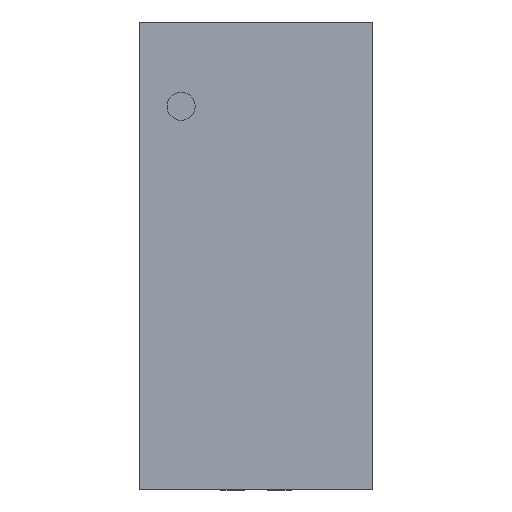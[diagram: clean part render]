
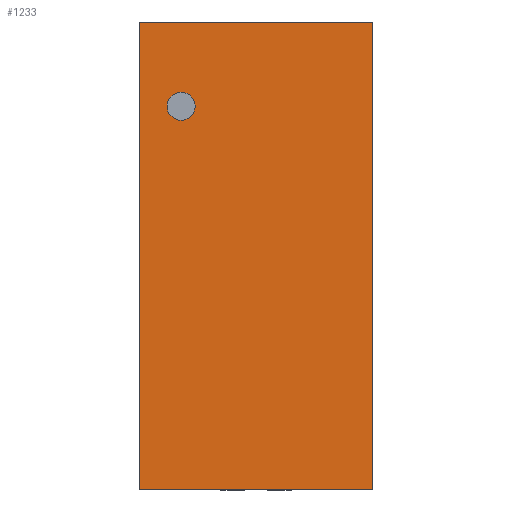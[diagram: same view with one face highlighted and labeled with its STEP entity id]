
A CAD part, top view. The second image highlights one B-rep face of the part: STEP entity #1233.
In plain terms, the highlighted planar face has unit normal (0, 0, 1).
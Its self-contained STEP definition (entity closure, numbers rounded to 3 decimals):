
#47 = EDGE_CURVE('',#48,#50,#52,.T.);
#48 = VERTEX_POINT('',#49);
#49 = CARTESIAN_POINT('',(-1.,-2.,0.55));
#50 = VERTEX_POINT('',#51);
#51 = CARTESIAN_POINT('',(-1.,2.,0.55));
#52 = SURFACE_CURVE('',#53,(#57,#69),.PCURVE_S1.);
#53 = LINE('',#54,#55);
#54 = CARTESIAN_POINT('',(-1.,-2.,0.55));
#55 = VECTOR('',#56,1.);
#56 = DIRECTION('',(0.,1.,0.));
#57 = PCURVE('',#58,#63);
#58 = PLANE('',#59);
#59 = AXIS2_PLACEMENT_3D('',#60,#61,#62);
#60 = CARTESIAN_POINT('',(-1.,-2.,0.025));
#61 = DIRECTION('',(1.,0.,0.));
#62 = DIRECTION('',(0.,0.,1.));
#63 = DEFINITIONAL_REPRESENTATION('',(#64),#68);
#64 = LINE('',#65,#66);
#65 = CARTESIAN_POINT('',(0.525,0.));
#66 = VECTOR('',#67,1.);
#67 = DIRECTION('',(0.,-1.));
#68 = ( GEOMETRIC_REPRESENTATION_CONTEXT(2) 
PARAMETRIC_REPRESENTATION_CONTEXT() REPRESENTATION_CONTEXT('2D SPACE',''
  ) );
#69 = PCURVE('',#70,#75);
#70 = PLANE('',#71);
#71 = AXIS2_PLACEMENT_3D('',#72,#73,#74);
#72 = CARTESIAN_POINT('',(-1.,-2.,0.55));
#73 = DIRECTION('',(0.,0.,1.));
#74 = DIRECTION('',(1.,0.,0.));
#75 = DEFINITIONAL_REPRESENTATION('',(#76),#80);
#76 = LINE('',#77,#78);
#77 = CARTESIAN_POINT('',(0.,0.));
#78 = VECTOR('',#79,1.);
#79 = DIRECTION('',(0.,1.));
#80 = ( GEOMETRIC_REPRESENTATION_CONTEXT(2) 
PARAMETRIC_REPRESENTATION_CONTEXT() REPRESENTATION_CONTEXT('2D SPACE',''
  ) );
#98 = PLANE('',#99);
#99 = AXIS2_PLACEMENT_3D('',#100,#101,#102);
#100 = CARTESIAN_POINT('',(-1.,-2.,0.025));
#101 = DIRECTION('',(0.,1.,0.));
#102 = DIRECTION('',(0.,0.,1.));
#1222 = PLANE('',#1223);
#1223 = AXIS2_PLACEMENT_3D('',#1224,#1225,#1226);
#1224 = CARTESIAN_POINT('',(-1.,2.,0.025));
#1225 = DIRECTION('',(0.,1.,0.));
#1226 = DIRECTION('',(0.,0.,1.));
#1233 = ADVANCED_FACE('',(#1234,#1309),#70,.T.);
#1234 = FACE_BOUND('',#1235,.T.);
#1235 = EDGE_LOOP('',(#1236,#1237,#1260,#1288));
#1236 = ORIENTED_EDGE('',*,*,#47,.F.);
#1237 = ORIENTED_EDGE('',*,*,#1238,.T.);
#1238 = EDGE_CURVE('',#48,#1239,#1241,.T.);
#1239 = VERTEX_POINT('',#1240);
#1240 = CARTESIAN_POINT('',(1.,-2.,0.55));
#1241 = SURFACE_CURVE('',#1242,(#1246,#1253),.PCURVE_S1.);
#1242 = LINE('',#1243,#1244);
#1243 = CARTESIAN_POINT('',(-1.,-2.,0.55));
#1244 = VECTOR('',#1245,1.);
#1245 = DIRECTION('',(1.,0.,0.));
#1246 = PCURVE('',#70,#1247);
#1247 = DEFINITIONAL_REPRESENTATION('',(#1248),#1252);
#1248 = LINE('',#1249,#1250);
#1249 = CARTESIAN_POINT('',(0.,0.));
#1250 = VECTOR('',#1251,1.);
#1251 = DIRECTION('',(1.,0.));
#1252 = ( GEOMETRIC_REPRESENTATION_CONTEXT(2) 
PARAMETRIC_REPRESENTATION_CONTEXT() REPRESENTATION_CONTEXT('2D SPACE',''
  ) );
#1253 = PCURVE('',#98,#1254);
#1254 = DEFINITIONAL_REPRESENTATION('',(#1255),#1259);
#1255 = LINE('',#1256,#1257);
#1256 = CARTESIAN_POINT('',(0.525,0.));
#1257 = VECTOR('',#1258,1.);
#1258 = DIRECTION('',(0.,1.));
#1259 = ( GEOMETRIC_REPRESENTATION_CONTEXT(2) 
PARAMETRIC_REPRESENTATION_CONTEXT() REPRESENTATION_CONTEXT('2D SPACE',''
  ) );
#1260 = ORIENTED_EDGE('',*,*,#1261,.T.);
#1261 = EDGE_CURVE('',#1239,#1262,#1264,.T.);
#1262 = VERTEX_POINT('',#1263);
#1263 = CARTESIAN_POINT('',(1.,2.,0.55));
#1264 = SURFACE_CURVE('',#1265,(#1269,#1276),.PCURVE_S1.);
#1265 = LINE('',#1266,#1267);
#1266 = CARTESIAN_POINT('',(1.,-2.,0.55));
#1267 = VECTOR('',#1268,1.);
#1268 = DIRECTION('',(0.,1.,0.));
#1269 = PCURVE('',#70,#1270);
#1270 = DEFINITIONAL_REPRESENTATION('',(#1271),#1275);
#1271 = LINE('',#1272,#1273);
#1272 = CARTESIAN_POINT('',(2.,0.));
#1273 = VECTOR('',#1274,1.);
#1274 = DIRECTION('',(0.,1.));
#1275 = ( GEOMETRIC_REPRESENTATION_CONTEXT(2) 
PARAMETRIC_REPRESENTATION_CONTEXT() REPRESENTATION_CONTEXT('2D SPACE',''
  ) );
#1276 = PCURVE('',#1277,#1282);
#1277 = PLANE('',#1278);
#1278 = AXIS2_PLACEMENT_3D('',#1279,#1280,#1281);
#1279 = CARTESIAN_POINT('',(1.,-2.,0.025));
#1280 = DIRECTION('',(1.,0.,0.));
#1281 = DIRECTION('',(0.,0.,1.));
#1282 = DEFINITIONAL_REPRESENTATION('',(#1283),#1287);
#1283 = LINE('',#1284,#1285);
#1284 = CARTESIAN_POINT('',(0.525,0.));
#1285 = VECTOR('',#1286,1.);
#1286 = DIRECTION('',(0.,-1.));
#1287 = ( GEOMETRIC_REPRESENTATION_CONTEXT(2) 
PARAMETRIC_REPRESENTATION_CONTEXT() REPRESENTATION_CONTEXT('2D SPACE',''
  ) );
#1288 = ORIENTED_EDGE('',*,*,#1289,.F.);
#1289 = EDGE_CURVE('',#50,#1262,#1290,.T.);
#1290 = SURFACE_CURVE('',#1291,(#1295,#1302),.PCURVE_S1.);
#1291 = LINE('',#1292,#1293);
#1292 = CARTESIAN_POINT('',(-1.,2.,0.55));
#1293 = VECTOR('',#1294,1.);
#1294 = DIRECTION('',(1.,0.,0.));
#1295 = PCURVE('',#70,#1296);
#1296 = DEFINITIONAL_REPRESENTATION('',(#1297),#1301);
#1297 = LINE('',#1298,#1299);
#1298 = CARTESIAN_POINT('',(0.,4.));
#1299 = VECTOR('',#1300,1.);
#1300 = DIRECTION('',(1.,0.));
#1301 = ( GEOMETRIC_REPRESENTATION_CONTEXT(2) 
PARAMETRIC_REPRESENTATION_CONTEXT() REPRESENTATION_CONTEXT('2D SPACE',''
  ) );
#1302 = PCURVE('',#1222,#1303);
#1303 = DEFINITIONAL_REPRESENTATION('',(#1304),#1308);
#1304 = LINE('',#1305,#1306);
#1305 = CARTESIAN_POINT('',(0.525,0.));
#1306 = VECTOR('',#1307,1.);
#1307 = DIRECTION('',(0.,1.));
#1308 = ( GEOMETRIC_REPRESENTATION_CONTEXT(2) 
PARAMETRIC_REPRESENTATION_CONTEXT() REPRESENTATION_CONTEXT('2D SPACE',''
  ) );
#1309 = FACE_BOUND('',#1310,.T.);
#1310 = EDGE_LOOP('',(#1311));
#1311 = ORIENTED_EDGE('',*,*,#1312,.F.);
#1312 = EDGE_CURVE('',#1313,#1313,#1315,.T.);
#1313 = VERTEX_POINT('',#1314);
#1314 = CARTESIAN_POINT('',(-0.52,1.28,0.55));
#1315 = SURFACE_CURVE('',#1316,(#1321,#1328),.PCURVE_S1.);
#1316 = CIRCLE('',#1317,0.12);
#1317 = AXIS2_PLACEMENT_3D('',#1318,#1319,#1320);
#1318 = CARTESIAN_POINT('',(-0.64,1.28,0.55));
#1319 = DIRECTION('',(0.,0.,1.));
#1320 = DIRECTION('',(1.,0.,0.));
#1321 = PCURVE('',#70,#1322);
#1322 = DEFINITIONAL_REPRESENTATION('',(#1323),#1327);
#1323 = CIRCLE('',#1324,0.12);
#1324 = AXIS2_PLACEMENT_2D('',#1325,#1326);
#1325 = CARTESIAN_POINT('',(0.36,3.28));
#1326 = DIRECTION('',(1.,0.));
#1327 = ( GEOMETRIC_REPRESENTATION_CONTEXT(2) 
PARAMETRIC_REPRESENTATION_CONTEXT() REPRESENTATION_CONTEXT('2D SPACE',''
  ) );
#1328 = PCURVE('',#1329,#1334);
#1329 = CYLINDRICAL_SURFACE('',#1330,0.12);
#1330 = AXIS2_PLACEMENT_3D('',#1331,#1332,#1333);
#1331 = CARTESIAN_POINT('',(-0.64,1.28,0.544));
#1332 = DIRECTION('',(-0.,-0.,-1.));
#1333 = DIRECTION('',(1.,0.,0.));
#1334 = DEFINITIONAL_REPRESENTATION('',(#1335),#1339);
#1335 = LINE('',#1336,#1337);
#1336 = CARTESIAN_POINT('',(-0.,-0.006));
#1337 = VECTOR('',#1338,1.);
#1338 = DIRECTION('',(-1.,0.));
#1339 = ( GEOMETRIC_REPRESENTATION_CONTEXT(2) 
PARAMETRIC_REPRESENTATION_CONTEXT() REPRESENTATION_CONTEXT('2D SPACE',''
  ) );
